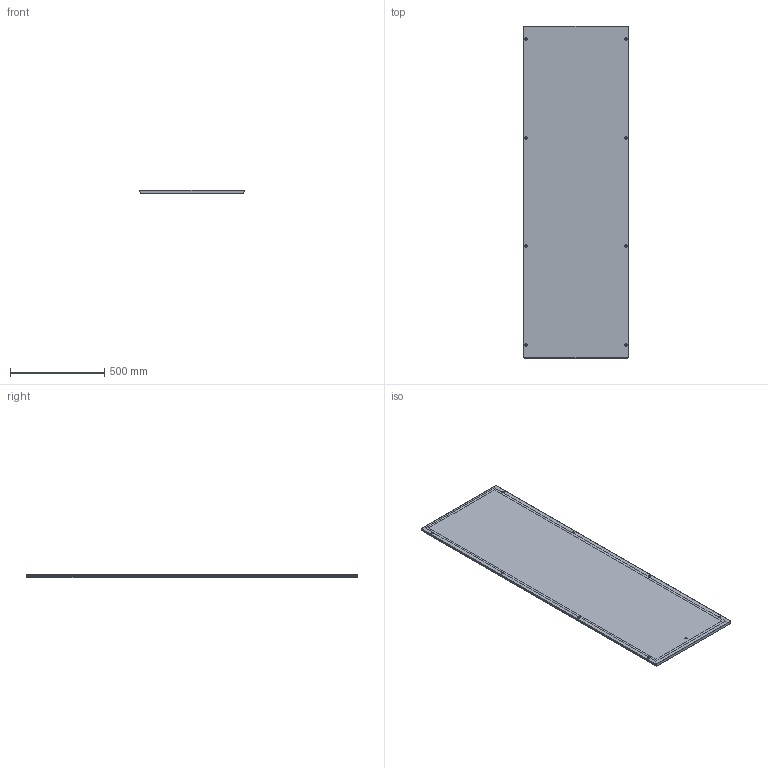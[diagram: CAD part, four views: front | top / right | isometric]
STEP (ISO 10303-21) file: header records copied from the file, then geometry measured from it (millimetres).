
FILE_DESCRIPTION( ( 'STEP AP214' ), '1' );
FILE_NAME( 'p:/temp/worker_255/temp/exporttempdir_3640_249_H2BRR/format_0/SPM1806R5(0).stp', '2021-03-16T12:00:42', ( 'License CC BY-ND 4.0' ), ( 'CADENAS' ), ' ', 'PARTsolutions', ' ' );
FILE_SCHEMA( ( 'AUTOMOTIVE_DESIGN { 1 0 10303 214 1 1 1 1 }' ) );
Length unit declared in the file: millimetre
Products named in the file (1): _SPM1806R5(0)
Bounding box: 562 x 1764 x 19.32 mm (x, y, z)
Volume: 1901693.8 mm3; surface area: 2200548.4 mm2
Topology: 1 solids, 1 shells, 114 faces, 323 edges, 212 vertices
Faces by surface type: plane 81, cone 26, cylinder 5, torus 2
Full cylindrical faces by diameter (mm): 8 x1, 9 x1
Entity records: 4511 total; most frequent: CARTESIAN_POINT 815, ORIENTED_EDGE 560, DIRECTION 541, EDGE_CURVE 280, VERTEX_POINT 196, LINE 185, VECTOR 185, AXIS2_PLACEMENT_3D 178
